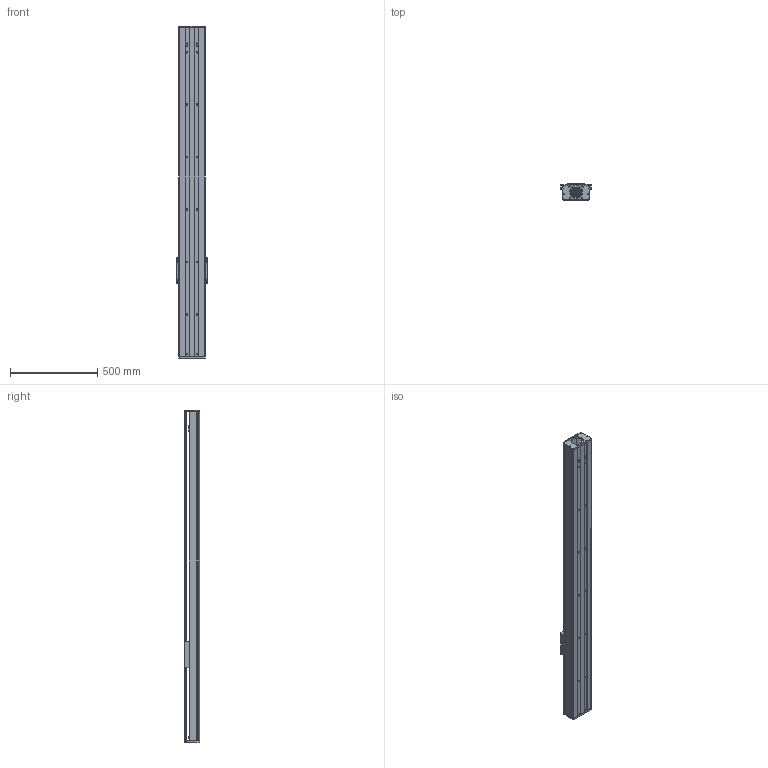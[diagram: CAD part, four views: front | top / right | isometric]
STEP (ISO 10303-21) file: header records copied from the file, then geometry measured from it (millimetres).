
FILE_DESCRIPTION (( 'STEP AP203' ), '1' );
FILE_NAME ('CF150-P1600.STEP', '2016-02-23T05:40:46', ( 'Sky123.Org' ), ( 'Sky123.Org' ), 'SwSTEP 2.0', 'SolidWorks 2015', '' );
FILE_SCHEMA (( 'CONFIG_CONTROL_DESIGN' ));
Length unit declared in the file: millimetre
Products named in the file (20): BF15; 蚾饜极2^蚾饜极1; deep groove ball bearings gb_Rolling bearings 6002 GB 276-94; 150賑輸; ѹȦ-15; 150臏倰第; 150耜啣; 长撑圈-15; HGR15絳寢; CF150裔啣; M15X1坶踡蹟譫; hGH15CA賑輸; CF150-P1600; 撑圈-15; BK15+BF15; BK15; 150-20蹟譫釱; 150-86俋离萇儂假蚾啣; SFU2005-3蹟譫
Assembly tree (24 placements, depth 3):
  CF150-P1600
    150臏倰第
    HGR15絳寢  x2
    hGH15CA賑輸  x4
    BK15+BF15
    150-20蹟譫釱
    150-86俋离萇儂假蚾啣
    BF15
    BK15
      deep groove ball bearings gb_Rolling bearings 6002 GB 276-94  x2
      ѹȦ-15
      长撑圈-15
      M15X1坶踡蹟譫
      撑圈-15
      BK15
    蚾饜极2^蚾饜极1
      SFU2005-3蹟譫
    150賑輸
    150耜啣
    CF150裔啣
Bounding box: 175 x 89 x 1900.24 mm (x, y, z)
Volume: 8449270.7 mm3; surface area: 2625343 mm2
Topology: 22 solids, 22 shells, 1472 faces, 4454 edges, 2966 vertices
Faces by surface type: cylinder 727, plane 549, torus 112, sphere 64, cone 16, bspline 4
Entity records: 115680 total; most frequent: CARTESIAN_POINT 85278, ORIENTED_EDGE 6130, DIRECTION 5671, EDGE_CURVE 3065, AXIS2_PLACEMENT_3D 2148, VERTEX_POINT 2040, EDGE_LOOP 1397, VECTOR 1375
